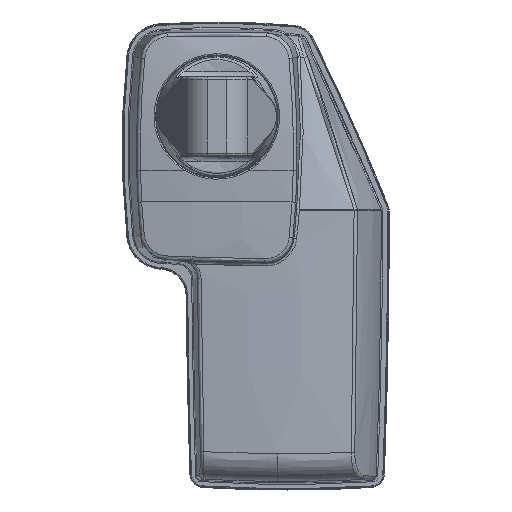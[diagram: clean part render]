
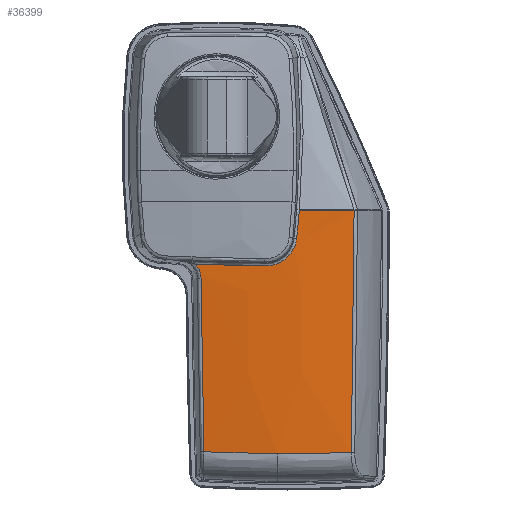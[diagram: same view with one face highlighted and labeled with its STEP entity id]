
A CAD part, top view. The second image highlights one B-rep face of the part: STEP entity #36399.
In plain terms, the highlighted free-form (B-spline) face has degree [3, 3] with [4, 4] control points.
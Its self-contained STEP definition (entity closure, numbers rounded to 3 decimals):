
#4018=CARTESIAN_POINT('',(47.56,-118.85,48.673));
#4058=CARTESIAN_POINT('',(-4.569,-118.539,
47.891));
#4091=CARTESIAN_POINT('',(-5.598,-57.13,
48.889));
#4092=CARTESIAN_POINT('',(-5.548,-63.965,
48.84));
#4093=CARTESIAN_POINT('',(-5.404,-77.628,
48.701));
#4094=CARTESIAN_POINT('',(-5.061,-98.098,
48.368));
#4095=CARTESIAN_POINT('',(-4.747,-111.728,
48.064));
#4096=CARTESIAN_POINT('',(-4.569,-118.539,
47.891));
#4110=CARTESIAN_POINT('',(-7.484,-52.274,
48.667));
#4111=CARTESIAN_POINT('',(-7.31,-52.468,
48.69));
#4112=CARTESIAN_POINT('',(-6.987,-52.867,
48.732));
#4113=CARTESIAN_POINT('',(-6.568,-53.517,
48.786));
#4114=CARTESIAN_POINT('',(-6.231,-54.173,
48.827));
#4115=CARTESIAN_POINT('',(-5.961,-54.868,
48.858));
#4116=CARTESIAN_POINT('',(-5.755,-55.61,
48.88));
#4117=CARTESIAN_POINT('',(-5.632,-56.354,
48.89));
#4118=CARTESIAN_POINT('',(-5.601,-56.869,
48.89));
#4119=CARTESIAN_POINT('',(-5.598,-57.13,
48.889));
#4121=CARTESIAN_POINT('',(-5.598,-57.13,
48.889));
#4129=CARTESIAN_POINT('',(-7.484,-52.274,
48.667));
#5960=CARTESIAN_POINT('',(-7.484,-52.274,
48.667));
#5961=CARTESIAN_POINT('',(0.65,-52.444,
49.809));
#5962=CARTESIAN_POINT('',(8.844,-52.63,50.521));
#5963=CARTESIAN_POINT('',(17.052,-52.835,50.799));
#5965=CARTESIAN_POINT('',(17.052,-52.835,50.799));
#5966=CARTESIAN_POINT('',(17.436,-52.845,50.812));
#5967=CARTESIAN_POINT('',(18.202,-52.824,50.836));
#5968=CARTESIAN_POINT('',(19.355,-52.671,50.868));
#5969=CARTESIAN_POINT('',(20.49,-52.394,50.895));
#5970=CARTESIAN_POINT('',(21.572,-52.006,50.915));
#5971=CARTESIAN_POINT('',(22.623,-51.5,50.932));
#5972=CARTESIAN_POINT('',(23.617,-50.883,50.943));
#5973=CARTESIAN_POINT('',(24.534,-50.169,50.951));
#5974=CARTESIAN_POINT('',(25.378,-49.353,50.956));
#5975=CARTESIAN_POINT('',(26.123,-48.46,50.958));
#5976=CARTESIAN_POINT('',(26.768,-47.496,50.959));
#5977=CARTESIAN_POINT('',(27.309,-46.469,50.959));
#5978=CARTESIAN_POINT('',(27.742,-45.377,50.959));
#5979=CARTESIAN_POINT('',(28.053,-44.263,50.959));
#5980=CARTESIAN_POINT('',(28.182,-43.474,50.96));
#5981=CARTESIAN_POINT('',(28.226,-43.071,50.961));
#5983=CARTESIAN_POINT('',(-269.457,-10.459,
22.327));
#5984=DIRECTION('',(-0.095,0.009,0.995));
#5985=DIRECTION('',(0.99,-0.108,0.095));
#5986=AXIS2_PLACEMENT_3D('',#5983,#5984,#5985);
#5988=CARTESIAN_POINT('',(25.,-33.08,
-182.5));
#5989=DIRECTION('',(0.,1.,0.));
#5990=DIRECTION('',(0.018,0.,1.));
#5991=AXIS2_PLACEMENT_3D('',#5988,#5989,#5990);
#5993=DIRECTION('',(0.342,-0.939,-0.035));
#5994=VECTOR('',#5993,0.16);
#5995=CARTESIAN_POINT('',(48.468,-33.08,49.818));
#5996=LINE('',#5995,#5994);
#5997=CARTESIAN_POINT('',(48.523,-33.23,49.812));
#5998=CARTESIAN_POINT('',(48.522,-47.503,49.811));
#5999=CARTESIAN_POINT('',(48.362,-76.049,49.62));
#6000=CARTESIAN_POINT('',(47.883,-104.586,49.052));
#6001=CARTESIAN_POINT('',(47.56,-118.85,48.673));
#6003=CARTESIAN_POINT('',(47.56,-118.85,48.673));
#6004=CARTESIAN_POINT('',(44.653,-118.962,48.954));
#6005=CARTESIAN_POINT('',(38.829,-119.141,49.406));
#6006=CARTESIAN_POINT('',(30.072,-119.281,49.759));
#6007=CARTESIAN_POINT('',(24.23,-119.288,49.776));
#6008=CARTESIAN_POINT('',(21.31,-119.27,49.73));
#6010=CARTESIAN_POINT('',(21.31,-119.27,49.73));
#6011=CARTESIAN_POINT('',(18.427,-119.252,49.685));
#6012=CARTESIAN_POINT('',(12.661,-119.174,49.488));
#6013=CARTESIAN_POINT('',(4.028,-118.93,48.874));
#6014=CARTESIAN_POINT('',(-1.707,-118.683,
48.254));
#6015=CARTESIAN_POINT('',(-4.569,-118.539,
47.891));
#6017=CARTESIAN_POINT('',(17.052,-52.835,50.799));
#23717=VERTEX_POINT('',#4018);
#23720=CARTESIAN_POINT('',(21.31,-119.27,
49.73));
#23721=VERTEX_POINT('',#23720);
#23723=VERTEX_POINT('',#4058);
#23724=VERTEX_POINT('',#4121);
#23725=VERTEX_POINT('',#4129);
#23728=VERTEX_POINT('',#6017);
#23785=CARTESIAN_POINT('',(48.468,-33.08,
49.818));
#23786=VERTEX_POINT('',#23785);
#23788=CARTESIAN_POINT('',(29.151,-33.08,
50.963));
#23789=VERTEX_POINT('',#23788);
#23790=VERTEX_POINT('',#5981);
#23791=CARTESIAN_POINT('',(48.523,-33.23,
49.812));
#23792=VERTEX_POINT('',#23791);
#36366=CARTESIAN_POINT('',(49.64,-31.355,
49.696));
#36367=CARTESIAN_POINT('',(49.642,-61.245,
49.712));
#36368=CARTESIAN_POINT('',(49.596,-91.132,
49.284));
#36369=CARTESIAN_POINT('',(49.504,-121.009,
48.412));
#36370=CARTESIAN_POINT('',(30.229,-31.355,
51.756));
#36371=CARTESIAN_POINT('',(30.229,-61.245,
51.772));
#36372=CARTESIAN_POINT('',(30.22,-91.132,
51.34));
#36373=CARTESIAN_POINT('',(30.2,-121.009,
50.461));
#36374=CARTESIAN_POINT('',(10.713,-31.355,
51.378));
#36375=CARTESIAN_POINT('',(10.712,-61.245,
51.394));
#36376=CARTESIAN_POINT('',(10.738,-91.132,
50.963));
#36377=CARTESIAN_POINT('',(10.792,-121.009,
50.085));
#36378=CARTESIAN_POINT('',(-8.604,-31.355,
48.569));
#36379=CARTESIAN_POINT('',(-8.606,-61.245,
48.585));
#36380=CARTESIAN_POINT('',(-8.545,-91.132,
48.159));
#36381=CARTESIAN_POINT('',(-8.418,-121.009,
47.292));
#36382=(BOUNDED_SURFACE()B_SPLINE_SURFACE(3,3,((#36366,#36367,#36368,#36369),(
#36370,#36371,#36372,#36373),(#36374,#36375,#36376,#36377),(#36378,#36379,
#36380,#36381)),.UNSPECIFIED.,.F.,.F.,.F.)B_SPLINE_SURFACE_WITH_KNOTS((4,4),(4,
4),(0.,1.),(0.,1.),.UNSPECIFIED.)GEOMETRIC_REPRESENTATION_ITEM()RATIONAL_B_SPLINE_SURFACE(((1.004,1.004,1.004,
1.004),(0.999,0.999,0.999,
0.999),(0.999,0.999,0.999,
0.999),(1.004,1.004,1.004,
1.004)))REPRESENTATION_ITEM('')SURFACE());
#36383=ORIENTED_EDGE('',*,*,#32463,.F.);
#36384=ORIENTED_EDGE('',*,*,#32521,.F.);
#36385=ORIENTED_EDGE('',*,*,#32720,.T.);
#36387=ORIENTED_EDGE('',*,*,#36386,.T.);
#36389=ORIENTED_EDGE('',*,*,#36388,.T.);
#36390=ORIENTED_EDGE('',*,*,#36359,.T.);
#36392=ORIENTED_EDGE('',*,*,#36391,.T.);
#36394=ORIENTED_EDGE('',*,*,#36393,.T.);
#36395=ORIENTED_EDGE('',*,*,#32312,.T.);
#36396=ORIENTED_EDGE('',*,*,#32328,.T.);
#36397=EDGE_LOOP('',(#36383,#36384,#36385,#36387,#36389,#36390,#36392,#36394,
#36395,#36396));
#36398=FACE_OUTER_BOUND('',#36397,.F.);
#36399=ADVANCED_FACE('',(#36398),#36382,.T.);
#4097=B_SPLINE_CURVE_WITH_KNOTS('',3,(#4091,#4092,#4093,#4094,#4095,#4096),
.UNSPECIFIED.,.F.,.F.,(4,1,1,4),(0.,0.333,0.667,1.),
.UNSPECIFIED.);
#4120=B_SPLINE_CURVE_WITH_KNOTS('',3,(#4110,#4111,#4112,#4113,#4114,#4115,#4116,
#4117,#4118,#4119),.UNSPECIFIED.,.F.,.F.,(4,1,1,1,1,1,1,4),(0.,
0.143,0.286,0.429,0.571,
0.714,0.857,1.),.UNSPECIFIED.);
#5964=B_SPLINE_CURVE_WITH_KNOTS('',3,(#5960,#5961,#5962,#5963),.UNSPECIFIED.,
.F.,.F.,(4,4),(0.,1.),.UNSPECIFIED.);
#5982=B_SPLINE_CURVE_WITH_KNOTS('',3,(#5965,#5966,#5967,#5968,#5969,#5970,#5971,
#5972,#5973,#5974,#5975,#5976,#5977,#5978,#5979,#5980,#5981),.UNSPECIFIED.,.F.,
.F.,(4,1,1,1,1,1,1,1,1,1,1,1,1,1,4),(0.,0.071,0.143,
0.214,0.286,0.357,0.429,0.5,
0.571,0.643,0.714,0.786,
0.857,0.929,1.),.UNSPECIFIED.);
#5987=CIRCLE('',#5986,300.829);
#5992=CIRCLE('',#5991,233.5);
#6002=B_SPLINE_CURVE_WITH_KNOTS('',3,(#5997,#5998,#5999,#6000,#6001),
.UNSPECIFIED.,.F.,.F.,(4,1,4),(0.,0.5,1.),.UNSPECIFIED.);
#6009=B_SPLINE_CURVE_WITH_KNOTS('',3,(#6003,#6004,#6005,#6006,#6007,#6008),
.UNSPECIFIED.,.F.,.F.,(4,1,1,4),(0.,0.333,0.667,1.),
.UNSPECIFIED.);
#6016=B_SPLINE_CURVE_WITH_KNOTS('',3,(#6010,#6011,#6012,#6013,#6014,#6015),
.UNSPECIFIED.,.F.,.F.,(4,1,1,4),(0.,0.333,0.667,1.),
.UNSPECIFIED.);
#32312=EDGE_CURVE('',#23717,#23721,#6009,.T.);
#32328=EDGE_CURVE('',#23721,#23723,#6016,.T.);
#32463=EDGE_CURVE('',#23724,#23723,#4097,.T.);
#32521=EDGE_CURVE('',#23725,#23724,#4120,.T.);
#32720=EDGE_CURVE('',#23725,#23728,#5964,.T.);
#36359=EDGE_CURVE('',#23789,#23786,#5992,.T.);
#36386=EDGE_CURVE('',#23728,#23790,#5982,.T.);
#36388=EDGE_CURVE('',#23790,#23789,#5987,.T.);
#36391=EDGE_CURVE('',#23786,#23792,#5996,.T.);
#36393=EDGE_CURVE('',#23792,#23717,#6002,.T.);
